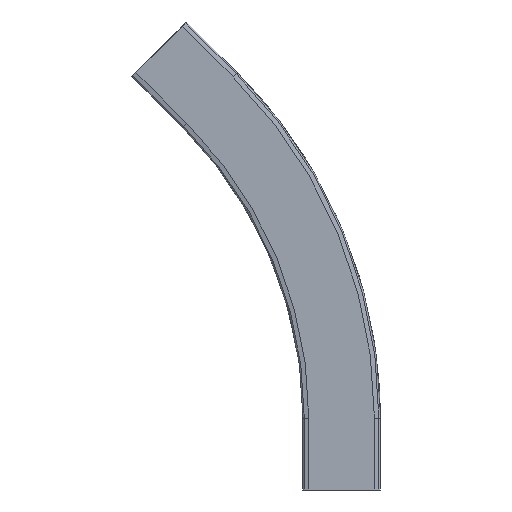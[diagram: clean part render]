
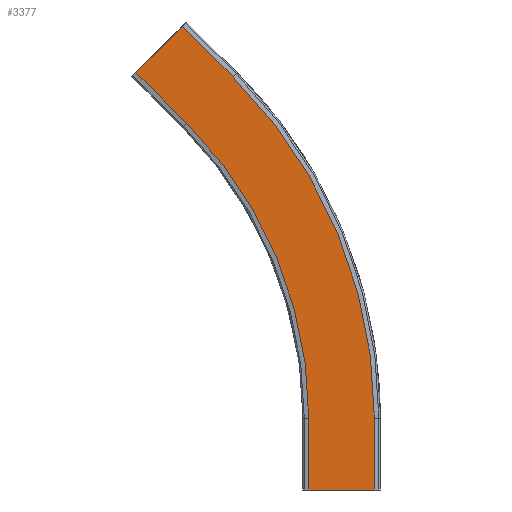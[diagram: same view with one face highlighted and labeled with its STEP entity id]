
A CAD part, front view. The second image highlights one B-rep face of the part: STEP entity #3377.
In plain terms, the highlighted planar face has unit normal (0, -1, 0).
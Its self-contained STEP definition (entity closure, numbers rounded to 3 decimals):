
#351=FACE_OUTER_BOUND('',#535,.T.);
#535=EDGE_LOOP('',(#3073,#3074,#3075,#3076,#3077,#3078,#3079,#3080));
#621=CIRCLE('',#3630,536.5);
#624=CIRCLE('',#3636,463.5);
#946=LINE('',#6017,#1296);
#951=LINE('',#6026,#1301);
#953=LINE('',#6031,#1303);
#968=LINE('',#6071,#1318);
#973=LINE('',#6082,#1323);
#974=LINE('',#6084,#1324);
#1296=VECTOR('',#4407,10.);
#1301=VECTOR('',#4414,10.);
#1303=VECTOR('',#4418,10.);
#1318=VECTOR('',#4459,10.);
#1323=VECTOR('',#4472,10.);
#1324=VECTOR('',#4475,10.);
#1620=VERTEX_POINT('',#6014);
#1621=VERTEX_POINT('',#6016);
#1624=VERTEX_POINT('',#6023);
#1625=VERTEX_POINT('',#6028);
#1635=VERTEX_POINT('',#6054);
#1637=VERTEX_POINT('',#6064);
#1638=VERTEX_POINT('',#6069);
#1640=VERTEX_POINT('',#6080);
#2088=EDGE_CURVE('',#1621,#1620,#946,.T.);
#2093=EDGE_CURVE('',#1621,#1624,#951,.T.);
#2095=EDGE_CURVE('',#1620,#1625,#953,.T.);
#2108=EDGE_CURVE('',#1625,#1635,#621,.T.);
#2114=EDGE_CURVE('',#1624,#1637,#624,.T.);
#2116=EDGE_CURVE('',#1635,#1638,#968,.T.);
#2121=EDGE_CURVE('',#1637,#1640,#973,.T.);
#2122=EDGE_CURVE('',#1638,#1640,#974,.T.);
#3073=ORIENTED_EDGE('',*,*,#2122,.T.);
#3074=ORIENTED_EDGE('',*,*,#2121,.F.);
#3075=ORIENTED_EDGE('',*,*,#2114,.F.);
#3076=ORIENTED_EDGE('',*,*,#2093,.F.);
#3077=ORIENTED_EDGE('',*,*,#2088,.T.);
#3078=ORIENTED_EDGE('',*,*,#2095,.T.);
#3079=ORIENTED_EDGE('',*,*,#2108,.T.);
#3080=ORIENTED_EDGE('',*,*,#2116,.T.);
#3202=PLANE('',#3642);
#3377=ADVANCED_FACE('',(#351),#3202,.T.);
#3630=AXIS2_PLACEMENT_3D('',#6056,#4439,#4440);
#3636=AXIS2_PLACEMENT_3D('',#6067,#4454,#4455);
#3642=AXIS2_PLACEMENT_3D('',#6083,#4473,#4474);
#4407=DIRECTION('',(1.,0.,0.));
#4414=DIRECTION('',(0.,0.,1.));
#4418=DIRECTION('',(0.,0.,1.));
#4439=DIRECTION('center_axis',(0.,-1.,0.));
#4440=DIRECTION('ref_axis',(1.,0.,0.));
#4454=DIRECTION('center_axis',(0.,-1.,0.));
#4455=DIRECTION('ref_axis',(1.,0.,0.));
#4459=DIRECTION('',(-0.707,0.,0.707));
#4472=DIRECTION('',(-0.707,0.,0.707));
#4473=DIRECTION('center_axis',(0.,-1.,0.));
#4474=DIRECTION('ref_axis',(0.707,0.,-0.707));
#4475=DIRECTION('',(-0.707,0.,-0.707));
#6014=CARTESIAN_POINT('',(36.5,-11.,0.));
#6016=CARTESIAN_POINT('',(-36.5,-11.,0.));
#6017=CARTESIAN_POINT('',(-36.5,-11.,0.));
#6023=CARTESIAN_POINT('',(-36.5,-11.,80.));
#6026=CARTESIAN_POINT('',(-36.5,-11.,0.));
#6028=CARTESIAN_POINT('',(36.5,-11.,80.));
#6031=CARTESIAN_POINT('',(36.5,-11.,0.));
#6054=CARTESIAN_POINT('',(-120.637,-11.,459.363));
#6056=CARTESIAN_POINT('Origin',(-500.,-11.,80.));
#6064=CARTESIAN_POINT('',(-172.256,-11.,407.744));
#6067=CARTESIAN_POINT('Origin',(-500.,-11.,80.));
#6069=CARTESIAN_POINT('',(-177.206,-11.,515.931));
#6071=CARTESIAN_POINT('',(213.612,-11.,125.114));
#6080=CARTESIAN_POINT('',(-228.825,-11.,464.313));
#6082=CARTESIAN_POINT('',(161.993,-11.,73.495));
#6083=CARTESIAN_POINT('Origin',(213.612,-11.,125.114));
#6084=CARTESIAN_POINT('',(-189.05,-11.,504.087));
